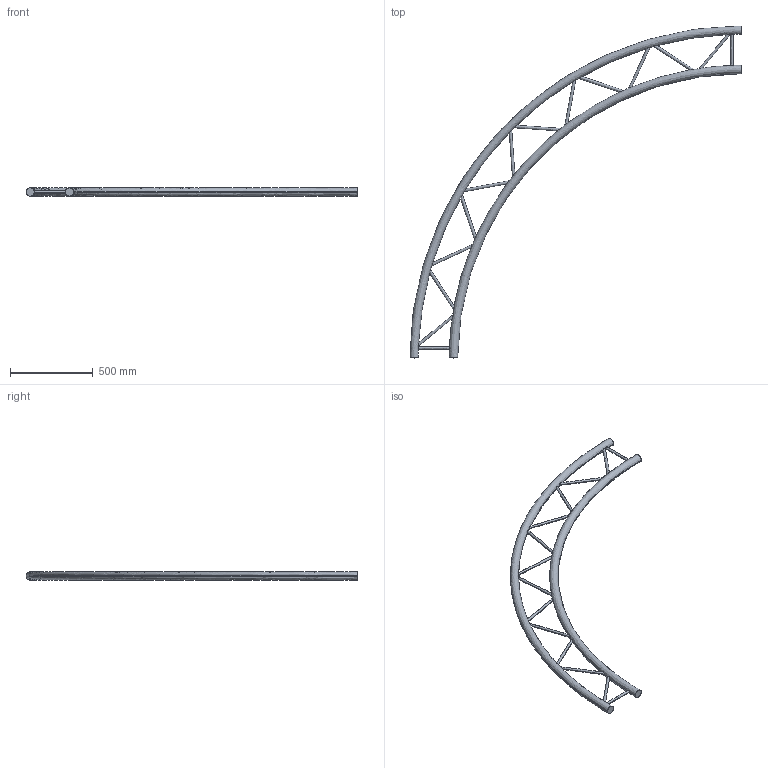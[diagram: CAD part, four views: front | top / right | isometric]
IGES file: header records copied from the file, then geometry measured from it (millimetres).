
Start section: SolidWorks IGES file using analytic representation for surfaces
Global section: file name: K:\BIBLIO\asd_biblio\EX290\Cercles\EXC290H\EXC29400H\EXC29400H.IGS; native system: SolidWorks 2009; preprocessor: SolidWorks 2009; author: des3; date: 091026.103453; units: millimetre
Bounding box: 2000 x 2000 x 50 mm (x, y, z)
Surface area: 1094989.1 mm2 (no closed solid volume)
Topology: 0 solids, 0 shells, 36 faces, 2457 edges, 2457 vertices
Faces by surface type: revolution 28, bspline 8
